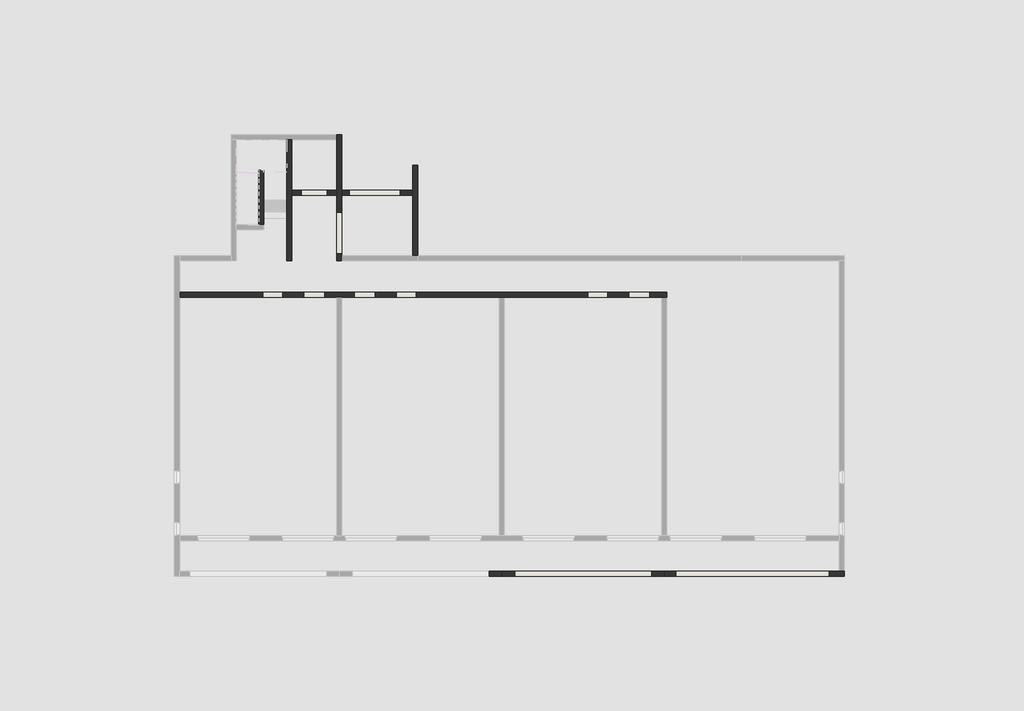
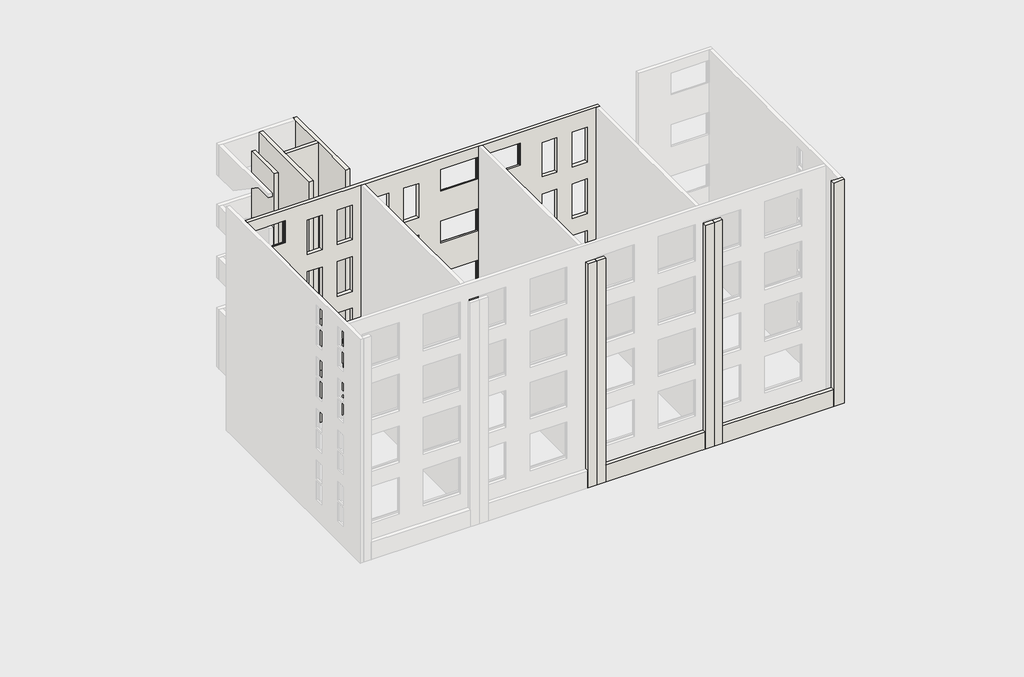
# One storey, part 2 of 5: 14 walls.
"""IFC4 building model written with IfcOpenShell, lengths in millimetres."""

from ifc_helpers import new_model, si_unit, frame, origin, place, context, project, spatial, polyline, outline, extrude, faceted_brep, element, save

model = new_model("IFC4")

# Units and contexts
model_context = context("Model", 3, world=origin())
ifc_project = project(units=[si_unit("LENGTHUNIT", "METRE", prefix="MILLI")], contexts=[model_context])

# Site, building, storey
site = spatial("IfcSite", under=ifc_project)
building = spatial("IfcBuilding", under=site)
storey = spatial("IfcBuildingStorey", under=building, Name="設計GL", Elevation=0.0)

# Walls
placement = place(None, origin())
element("IfcWall", 1, ObjectType="(R)RC200", at=placement, inside=storey, context=model_context, shape_type="Brep", body=[
    faceted_brep([(-11078.7187246, -5800.1171638, -1200.0), (-4828.7187246, -5800.1171638, -1200.0), (-4628.7187246, -5800.1171638, -1200.0), (1621.2812754, -5800.1171638, -1200.0), (1821.2812754, -5800.1171638, -1200.0), (8071.2812754, -5800.1171638, -1200.0), (8271.2812754, -5800.1171638, -1200.0), (8271.2812754, -5800.1171638, -200.0), (8271.2812754, -5800.1171638, 13000.0), (8071.2812754, -5800.1171638, 13000.0), (1821.2812754, -5800.1171638, 13000.0), (1621.2812754, -5800.1171638, 13000.0), (-4628.7187246, -5800.1171638, 13000.0), (-4828.7187246, -5800.1171638, 13000.0), (-11078.7187246, -5800.1171638, 13000.0), (-6978.7187246, -5800.1171638, 1000.0), (-7778.7187246, -5800.1171638, 1000.0), (-7778.7187246, -5800.1171638, 3000.0), (-6978.7187246, -5800.1171638, 3000.0), (-6148.7187246, -5800.1171638, 3020.0), (-5308.7187246, -5800.1171638, 3020.0), (-5308.7187246, -5800.1171638, 1000.0), (-6148.7187246, -5800.1171638, 1000.0), (-8988.7187246, -5800.1171638, 3385.0), (-8988.7187246, -5800.1171638, 2115.0), (-11068.7187246, -5800.1171638, 2115.0), (-11068.7187246, -5800.1171638, 3385.0), (1611.2812754, -5800.1171638, 3385.0), (1611.2812754, -5800.1171638, 2115.0), (-468.7187246, -5800.1171638, 2115.0), (-468.7187246, -5800.1171638, 3385.0), (-3308.7187246, -5800.1171638, 3020.0), (-3308.7187246, -5800.1171638, 1000.0), (-4148.7187246, -5800.1171638, 1000.0), (-4148.7187246, -5800.1171638, 3020.0), (-2478.7187246, -5800.1171638, 1000.0), (-2478.7187246, -5800.1171638, 3000.0), (-1678.7187246, -5800.1171638, 3000.0), (-1678.7187246, -5800.1171638, 1000.0), (3911.2812754, -5800.1171638, 3385.0), (3911.2812754, -5800.1171638, 2115.0), (1831.2812754, -5800.1171638, 2115.0), (1831.2812754, -5800.1171638, 3385.0), (6751.2812754, -5800.1171638, 3020.0), (7591.2812754, -5800.1171638, 3020.0), (7591.2812754, -5800.1171638, 1000.0), (6751.2812754, -5800.1171638, 1000.0), (5921.2812754, -5800.1171638, 1000.0), (5121.2812754, -5800.1171638, 1000.0), (5121.2812754, -5800.1171638, 3000.0), (5921.2812754, -5800.1171638, 3000.0), (3911.2812754, -5800.1171638, 6385.0), (3911.2812754, -5800.1171638, 5115.0), (1831.2812754, -5800.1171638, 5115.0), (1831.2812754, -5800.1171638, 6385.0), (6751.2812754, -5800.1171638, 6020.0), (7591.2812754, -5800.1171638, 6020.0), (7591.2812754, -5800.1171638, 4000.0), (6751.2812754, -5800.1171638, 4000.0), (5921.2812754, -5800.1171638, 4000.0), (5121.2812754, -5800.1171638, 4000.0), (5121.2812754, -5800.1171638, 6000.0), (5921.2812754, -5800.1171638, 6000.0), (1611.2812754, -5800.1171638, 6385.0), (1611.2812754, -5800.1171638, 5115.0), (-468.7187246, -5800.1171638, 5115.0), (-468.7187246, -5800.1171638, 6385.0), (-3308.7187246, -5800.1171638, 6020.0), (-3308.7187246, -5800.1171638, 4000.0), (-4148.7187246, -5800.1171638, 4000.0), (-4148.7187246, -5800.1171638, 6020.0), (-2478.7187246, -5800.1171638, 4000.0), (-2478.7187246, -5800.1171638, 6000.0), (-1678.7187246, -5800.1171638, 6000.0), (-1678.7187246, -5800.1171638, 4000.0), (-8988.7187246, -5800.1171638, 6385.0), (-8988.7187246, -5800.1171638, 5115.0), (-11068.7187246, -5800.1171638, 5115.0), (-11068.7187246, -5800.1171638, 6385.0), (-6148.7187246, -5800.1171638, 6020.0), (-5308.7187246, -5800.1171638, 6020.0), (-5308.7187246, -5800.1171638, 4000.0), (-6148.7187246, -5800.1171638, 4000.0), (-6978.7187246, -5800.1171638, 4000.0), (-7778.7187246, -5800.1171638, 4000.0), (-7778.7187246, -5800.1171638, 6000.0), (-6978.7187246, -5800.1171638, 6000.0), (3911.2812754, -5800.1171638, 9385.0), (3911.2812754, -5800.1171638, 8115.0), (1831.2812754, -5800.1171638, 8115.0), (1831.2812754, -5800.1171638, 9385.0), (6751.2812754, -5800.1171638, 9020.0), (7591.2812754, -5800.1171638, 9020.0), (7591.2812754, -5800.1171638, 7000.0), (6751.2812754, -5800.1171638, 7000.0), (5921.2812754, -5800.1171638, 7000.0), (5121.2812754, -5800.1171638, 7000.0), (5121.2812754, -5800.1171638, 9000.0), (5921.2812754, -5800.1171638, 9000.0), (1611.2812754, -5800.1171638, 9385.0), (1611.2812754, -5800.1171638, 8115.0), (-468.7187246, -5800.1171638, 8115.0), (-468.7187246, -5800.1171638, 9385.0), (-3308.7187246, -5800.1171638, 9020.0), (-3308.7187246, -5800.1171638, 7000.0), (-4148.7187246, -5800.1171638, 7000.0), (-4148.7187246, -5800.1171638, 9020.0), (-2478.7187246, -5800.1171638, 7000.0), (-2478.7187246, -5800.1171638, 9000.0), (-1678.7187246, -5800.1171638, 9000.0), (-1678.7187246, -5800.1171638, 7000.0), (-8988.7187246, -5800.1171638, 9385.0), (-8988.7187246, -5800.1171638, 8115.0), (-11068.7187246, -5800.1171638, 8115.0), (-11068.7187246, -5800.1171638, 9385.0), (-6148.7187246, -5800.1171638, 9020.0), (-5308.7187246, -5800.1171638, 9020.0), (-5308.7187246, -5800.1171638, 7000.0), (-6148.7187246, -5800.1171638, 7000.0), (-6978.7187246, -5800.1171638, 7000.0), (-7778.7187246, -5800.1171638, 7000.0), (-7778.7187246, -5800.1171638, 9000.0), (-6978.7187246, -5800.1171638, 9000.0), (3911.2812754, -5800.1171638, 12385.0), (3911.2812754, -5800.1171638, 11115.0), (1831.2812754, -5800.1171638, 11115.0), (1831.2812754, -5800.1171638, 12385.0), (6751.2812754, -5800.1171638, 12020.0), (7591.2812754, -5800.1171638, 12020.0), (7591.2812754, -5800.1171638, 10000.0), (6751.2812754, -5800.1171638, 10000.0), (5921.2812754, -5800.1171638, 10000.0), (5121.2812754, -5800.1171638, 10000.0), (5121.2812754, -5800.1171638, 12000.0), (5921.2812754, -5800.1171638, 12000.0), (1611.2812754, -5800.1171638, 12385.0), (1611.2812754, -5800.1171638, 11115.0), (-468.7187246, -5800.1171638, 11115.0), (-468.7187246, -5800.1171638, 12385.0), (-3308.7187246, -5800.1171638, 12020.0), (-3308.7187246, -5800.1171638, 10000.0), (-4148.7187246, -5800.1171638, 10000.0), (-4148.7187246, -5800.1171638, 12020.0), (-2478.7187246, -5800.1171638, 10000.0), (-2478.7187246, -5800.1171638, 12000.0), (-1678.7187246, -5800.1171638, 12000.0), (-1678.7187246, -5800.1171638, 10000.0), (-8988.7187246, -5800.1171638, 12385.0), (-8988.7187246, -5800.1171638, 11115.0), (-11068.7187246, -5800.1171638, 11115.0), (-11068.7187246, -5800.1171638, 12385.0), (-6148.7187246, -5800.1171638, 12020.0), (-5308.7187246, -5800.1171638, 12020.0), (-5308.7187246, -5800.1171638, 10000.0), (-6148.7187246, -5800.1171638, 10000.0), (-6978.7187246, -5800.1171638, 10000.0), (-7778.7187246, -5800.1171638, 10000.0), (-7778.7187246, -5800.1171638, 12000.0), (-6978.7187246, -5800.1171638, 12000.0), (8271.2812754, -5600.1171638, -1200.0), (-11078.7187246, -5600.1171638, -1200.0), (-11078.7187246, -5600.1171638, 13000.0), (8271.2812754, -5600.1171638, 13000.0), (8271.2812754, -5600.1171638, -200.0), (-6978.7187246, -5600.1171638, 1000.0), (-6978.7187246, -5600.1171638, 3000.0), (-7778.7187246, -5600.1171638, 3000.0), (-7778.7187246, -5600.1171638, 1000.0), (-6148.7187246, -5600.1171638, 3020.0), (-6148.7187246, -5600.1171638, 1000.0), (-5308.7187246, -5600.1171638, 1000.0), (-5308.7187246, -5600.1171638, 3020.0), (-11038.7187246, -5600.1171638, 2025.0), (-9018.7187246, -5600.1171638, 2025.0), (-9018.7187246, -5600.1171638, 3360.0), (-11038.7187246, -5600.1171638, 3360.0), (-438.7187246, -5600.1171638, 2025.0), (1581.2812754, -5600.1171638, 2025.0), (1581.2812754, -5600.1171638, 3360.0), (-438.7187246, -5600.1171638, 3360.0), (-3308.7187246, -5600.1171638, 3020.0), (-4148.7187246, -5600.1171638, 3020.0), (-4148.7187246, -5600.1171638, 1000.0), (-3308.7187246, -5600.1171638, 1000.0), (-2478.7187246, -5600.1171638, 1000.0), (-1678.7187246, -5600.1171638, 1000.0), (-1678.7187246, -5600.1171638, 3000.0), (-2478.7187246, -5600.1171638, 3000.0), (1861.2812754, -5600.1171638, 2025.0), (3881.2812754, -5600.1171638, 2025.0), (3881.2812754, -5600.1171638, 3360.0), (1861.2812754, -5600.1171638, 3360.0), (6751.2812754, -5600.1171638, 3020.0), (6751.2812754, -5600.1171638, 1000.0), (7591.2812754, -5600.1171638, 1000.0), (7591.2812754, -5600.1171638, 3020.0), (5921.2812754, -5600.1171638, 1000.0), (5921.2812754, -5600.1171638, 3000.0), (5121.2812754, -5600.1171638, 3000.0), (5121.2812754, -5600.1171638, 1000.0), (1861.2812754, -5600.1171638, 5025.0), (3881.2812754, -5600.1171638, 5025.0), (3881.2812754, -5600.1171638, 6360.0), (1861.2812754, -5600.1171638, 6360.0), (6751.2812754, -5600.1171638, 6020.0), (6751.2812754, -5600.1171638, 4000.0), (7591.2812754, -5600.1171638, 4000.0), (7591.2812754, -5600.1171638, 6020.0), (5921.2812754, -5600.1171638, 4000.0), (5921.2812754, -5600.1171638, 6000.0), (5121.2812754, -5600.1171638, 6000.0), (5121.2812754, -5600.1171638, 4000.0), (-438.7187246, -5600.1171638, 5025.0), (1581.2812754, -5600.1171638, 5025.0), (1581.2812754, -5600.1171638, 6360.0), (-438.7187246, -5600.1171638, 6360.0), (-3308.7187246, -5600.1171638, 6020.0), (-4148.7187246, -5600.1171638, 6020.0), (-4148.7187246, -5600.1171638, 4000.0), (-3308.7187246, -5600.1171638, 4000.0), (-2478.7187246, -5600.1171638, 4000.0), (-1678.7187246, -5600.1171638, 4000.0), (-1678.7187246, -5600.1171638, 6000.0), (-2478.7187246, -5600.1171638, 6000.0), (-11038.7187246, -5600.1171638, 5025.0), (-9018.7187246, -5600.1171638, 5025.0), (-9018.7187246, -5600.1171638, 6360.0), (-11038.7187246, -5600.1171638, 6360.0), (-6148.7187246, -5600.1171638, 6020.0), (-6148.7187246, -5600.1171638, 4000.0), (-5308.7187246, -5600.1171638, 4000.0), (-5308.7187246, -5600.1171638, 6020.0), (-6978.7187246, -5600.1171638, 4000.0), (-6978.7187246, -5600.1171638, 6000.0), (-7778.7187246, -5600.1171638, 6000.0), (-7778.7187246, -5600.1171638, 4000.0), (1861.2812754, -5600.1171638, 8025.0), (3881.2812754, -5600.1171638, 8025.0), (3881.2812754, -5600.1171638, 9360.0), (1861.2812754, -5600.1171638, 9360.0), (6751.2812754, -5600.1171638, 9020.0), (6751.2812754, -5600.1171638, 7000.0), (7591.2812754, -5600.1171638, 7000.0), (7591.2812754, -5600.1171638, 9020.0), (5921.2812754, -5600.1171638, 7000.0), (5921.2812754, -5600.1171638, 9000.0), (5121.2812754, -5600.1171638, 9000.0), (5121.2812754, -5600.1171638, 7000.0), (-438.7187246, -5600.1171638, 8025.0), (1581.2812754, -5600.1171638, 8025.0), (1581.2812754, -5600.1171638, 9360.0), (-438.7187246, -5600.1171638, 9360.0), (-3308.7187246, -5600.1171638, 9020.0), (-4148.7187246, -5600.1171638, 9020.0), (-4148.7187246, -5600.1171638, 7000.0), (-3308.7187246, -5600.1171638, 7000.0), (-2478.7187246, -5600.1171638, 7000.0), (-1678.7187246, -5600.1171638, 7000.0), (-1678.7187246, -5600.1171638, 9000.0), (-2478.7187246, -5600.1171638, 9000.0), (-11038.7187246, -5600.1171638, 8025.0), (-9018.7187246, -5600.1171638, 8025.0), (-9018.7187246, -5600.1171638, 9360.0), (-11038.7187246, -5600.1171638, 9360.0), (-6148.7187246, -5600.1171638, 9020.0), (-6148.7187246, -5600.1171638, 7000.0), (-5308.7187246, -5600.1171638, 7000.0), (-5308.7187246, -5600.1171638, 9020.0), (-6978.7187246, -5600.1171638, 7000.0), (-6978.7187246, -5600.1171638, 9000.0), (-7778.7187246, -5600.1171638, 9000.0), (-7778.7187246, -5600.1171638, 7000.0), (1861.2812754, -5600.1171638, 11025.0), (3881.2812754, -5600.1171638, 11025.0), (3881.2812754, -5600.1171638, 12360.0), (1861.2812754, -5600.1171638, 12360.0), (6751.2812754, -5600.1171638, 12020.0), (6751.2812754, -5600.1171638, 10000.0), (7591.2812754, -5600.1171638, 10000.0), (7591.2812754, -5600.1171638, 12020.0), (5921.2812754, -5600.1171638, 10000.0), (5921.2812754, -5600.1171638, 12000.0), (5121.2812754, -5600.1171638, 12000.0), (5121.2812754, -5600.1171638, 10000.0), (-438.7187246, -5600.1171638, 11025.0), (1581.2812754, -5600.1171638, 11025.0), (1581.2812754, -5600.1171638, 12360.0), (-438.7187246, -5600.1171638, 12360.0), (-3308.7187246, -5600.1171638, 12020.0), (-4148.7187246, -5600.1171638, 12020.0), (-4148.7187246, -5600.1171638, 10000.0), (-3308.7187246, -5600.1171638, 10000.0), (-2478.7187246, -5600.1171638, 10000.0), (-1678.7187246, -5600.1171638, 10000.0), (-1678.7187246, -5600.1171638, 12000.0), (-2478.7187246, -5600.1171638, 12000.0), (-11038.7187246, -5600.1171638, 11025.0), (-9018.7187246, -5600.1171638, 11025.0), (-9018.7187246, -5600.1171638, 12360.0), (-11038.7187246, -5600.1171638, 12360.0), (-6148.7187246, -5600.1171638, 12020.0), (-6148.7187246, -5600.1171638, 10000.0), (-5308.7187246, -5600.1171638, 10000.0), (-5308.7187246, -5600.1171638, 12020.0), (-6978.7187246, -5600.1171638, 10000.0), (-6978.7187246, -5600.1171638, 12000.0), (-7778.7187246, -5600.1171638, 12000.0), (-7778.7187246, -5600.1171638, 10000.0), (-8988.7187246, -5730.1171638, 3385.0), (-8988.7187246, -5730.1171638, 2115.0), (-11068.7187246, -5730.1171638, 2115.0), (-11068.7187246, -5730.1171638, 3385.0), (-8998.7187246, -5730.1171638, 2115.0), (-11058.7187246, -5730.1171638, 2115.0), (-11058.7187246, -5730.1171638, 3380.0), (-8998.7187246, -5730.1171638, 3380.0), (-8998.7187246, -5660.1171638, 3380.0), (-8998.7187246, -5660.1171638, 2034.2307692), (-8998.7187246, -5730.1171638, 2045.0), (-11058.7187246, -5730.1171638, 2045.0), (-11058.7187246, -5660.1171638, 2034.2307692), (-11058.7187246, -5660.1171638, 3380.0), (-9018.7187246, -5660.1171638, 2034.2307692), (-11038.7187246, -5660.1171638, 2034.2307692), (-11038.7187246, -5660.1171638, 3360.0), (-9018.7187246, -5660.1171638, 3360.0), (1611.2812754, -5730.1171638, 3385.0), (1611.2812754, -5730.1171638, 2115.0), (-468.7187246, -5730.1171638, 2115.0), (-468.7187246, -5730.1171638, 3385.0), (1601.2812754, -5730.1171638, 2115.0), (-458.7187246, -5730.1171638, 2115.0), (-458.7187246, -5730.1171638, 3380.0), (1601.2812754, -5730.1171638, 3380.0), (1601.2812754, -5660.1171638, 3380.0), (1601.2812754, -5660.1171638, 2034.2307692), (1601.2812754, -5730.1171638, 2045.0), (-458.7187246, -5730.1171638, 2045.0), (-458.7187246, -5660.1171638, 2034.2307692), (-458.7187246, -5660.1171638, 3380.0), (1581.2812754, -5660.1171638, 2034.2307692), (-438.7187246, -5660.1171638, 2034.2307692), (-438.7187246, -5660.1171638, 3360.0), (1581.2812754, -5660.1171638, 3360.0), (3911.2812754, -5730.1171638, 3385.0), (3911.2812754, -5730.1171638, 2115.0), (1831.2812754, -5730.1171638, 2115.0), (1831.2812754, -5730.1171638, 3385.0), (3901.2812754, -5730.1171638, 2115.0), (1841.2812754, -5730.1171638, 2115.0), (1841.2812754, -5730.1171638, 3380.0), (3901.2812754, -5730.1171638, 3380.0), (3901.2812754, -5660.1171638, 3380.0), (3901.2812754, -5660.1171638, 2034.2307692), (3901.2812754, -5730.1171638, 2045.0), (1841.2812754, -5730.1171638, 2045.0), (1841.2812754, -5660.1171638, 2034.2307692), (1841.2812754, -5660.1171638, 3380.0), (3881.2812754, -5660.1171638, 2034.2307692), (1861.2812754, -5660.1171638, 2034.2307692), (1861.2812754, -5660.1171638, 3360.0), (3881.2812754, -5660.1171638, 3360.0), (3911.2812754, -5730.1171638, 6385.0), (3911.2812754, -5730.1171638, 5115.0), (1831.2812754, -5730.1171638, 5115.0), (1831.2812754, -5730.1171638, 6385.0), (3901.2812754, -5730.1171638, 5115.0), (1841.2812754, -5730.1171638, 5115.0), (1841.2812754, -5730.1171638, 6380.0), (3901.2812754, -5730.1171638, 6380.0), (3901.2812754, -5660.1171638, 6380.0), (3901.2812754, -5660.1171638, 5034.2307692), (3901.2812754, -5730.1171638, 5045.0), (1841.2812754, -5730.1171638, 5045.0), (1841.2812754, -5660.1171638, 5034.2307692), (1841.2812754, -5660.1171638, 6380.0), (3881.2812754, -5660.1171638, 5034.2307692), (1861.2812754, -5660.1171638, 5034.2307692), (1861.2812754, -5660.1171638, 6360.0), (3881.2812754, -5660.1171638, 6360.0), (1611.2812754, -5730.1171638, 6385.0), (1611.2812754, -5730.1171638, 5115.0), (-468.7187246, -5730.1171638, 5115.0), (-468.7187246, -5730.1171638, 6385.0), (1601.2812754, -5730.1171638, 5115.0), (-458.7187246, -5730.1171638, 5115.0), (-458.7187246, -5730.1171638, 6380.0), (1601.2812754, -5730.1171638, 6380.0), (1601.2812754, -5660.1171638, 6380.0), (1601.2812754, -5660.1171638, 5034.2307692), (1601.2812754, -5730.1171638, 5045.0), (-458.7187246, -5730.1171638, 5045.0), (-458.7187246, -5660.1171638, 5034.2307692), (-458.7187246, -5660.1171638, 6380.0), (1581.2812754, -5660.1171638, 5034.2307692), (-438.7187246, -5660.1171638, 5034.2307692), (-438.7187246, -5660.1171638, 6360.0), (1581.2812754, -5660.1171638, 6360.0), (-8988.7187246, -5730.1171638, 6385.0), (-8988.7187246, -5730.1171638, 5115.0), (-11068.7187246, -5730.1171638, 5115.0), (-11068.7187246, -5730.1171638, 6385.0), (-8998.7187246, -5730.1171638, 5115.0), (-11058.7187246, -5730.1171638, 5115.0), (-11058.7187246, -5730.1171638, 6380.0), (-8998.7187246, -5730.1171638, 6380.0), (-8998.7187246, -5660.1171638, 6380.0), (-8998.7187246, -5660.1171638, 5034.2307692), (-8998.7187246, -5730.1171638, 5045.0), (-11058.7187246, -5730.1171638, 5045.0), (-11058.7187246, -5660.1171638, 5034.2307692), (-11058.7187246, -5660.1171638, 6380.0), (-9018.7187246, -5660.1171638, 5034.2307692), (-11038.7187246, -5660.1171638, 5034.2307692), (-11038.7187246, -5660.1171638, 6360.0), (-9018.7187246, -5660.1171638, 6360.0), (3911.2812754, -5730.1171638, 9385.0), (3911.2812754, -5730.1171638, 8115.0), (1831.2812754, -5730.1171638, 8115.0), (1831.2812754, -5730.1171638, 9385.0), (3901.2812754, -5730.1171638, 8115.0), (1841.2812754, -5730.1171638, 8115.0), (1841.2812754, -5730.1171638, 9380.0), (3901.2812754, -5730.1171638, 9380.0), (3901.2812754, -5660.1171638, 9380.0), (3901.2812754, -5660.1171638, 8034.2307692), (3901.2812754, -5730.1171638, 8045.0), (1841.2812754, -5730.1171638, 8045.0), (1841.2812754, -5660.1171638, 8034.2307692), (1841.2812754, -5660.1171638, 9380.0), (3881.2812754, -5660.1171638, 8034.2307692), (1861.2812754, -5660.1171638, 8034.2307692), (1861.2812754, -5660.1171638, 9360.0), (3881.2812754, -5660.1171638, 9360.0), (1611.2812754, -5730.1171638, 9385.0), (1611.2812754, -5730.1171638, 8115.0), (-468.7187246, -5730.1171638, 8115.0), (-468.7187246, -5730.1171638, 9385.0), (1601.2812754, -5730.1171638, 8115.0), (-458.7187246, -5730.1171638, 8115.0), (-458.7187246, -5730.1171638, 9380.0), (1601.2812754, -5730.1171638, 9380.0), (1601.2812754, -5660.1171638, 9380.0), (1601.2812754, -5660.1171638, 8034.2307692), (1601.2812754, -5730.1171638, 8045.0), (-458.7187246, -5730.1171638, 8045.0), (-458.7187246, -5660.1171638, 8034.2307692), (-458.7187246, -5660.1171638, 9380.0), (1581.2812754, -5660.1171638, 8034.2307692), (-438.7187246, -5660.1171638, 8034.2307692), (-438.7187246, -5660.1171638, 9360.0), (1581.2812754, -5660.1171638, 9360.0), (-8988.7187246, -5730.1171638, 9385.0), (-8988.7187246, -5730.1171638, 8115.0), (-11068.7187246, -5730.1171638, 8115.0), (-11068.7187246, -5730.1171638, 9385.0), (-8998.7187246, -5730.1171638, 8115.0), (-11058.7187246, -5730.1171638, 8115.0), (-11058.7187246, -5730.1171638, 9380.0), (-8998.7187246, -5730.1171638, 9380.0), (-8998.7187246, -5660.1171638, 9380.0), (-8998.7187246, -5660.1171638, 8034.2307692), (-8998.7187246, -5730.1171638, 8045.0), (-11058.7187246, -5730.1171638, 8045.0), (-11058.7187246, -5660.1171638, 8034.2307692), (-11058.7187246, -5660.1171638, 9380.0), (-9018.7187246, -5660.1171638, 8034.2307692), (-11038.7187246, -5660.1171638, 8034.2307692), (-11038.7187246, -5660.1171638, 9360.0), (-9018.7187246, -5660.1171638, 9360.0), (3911.2812754, -5730.1171638, 12385.0), (3911.2812754, -5730.1171638, 11115.0), (1831.2812754, -5730.1171638, 11115.0), (1831.2812754, -5730.1171638, 12385.0), (3901.2812754, -5730.1171638, 11115.0), (1841.2812754, -5730.1171638, 11115.0), (1841.2812754, -5730.1171638, 12380.0), (3901.2812754, -5730.1171638, 12380.0), (3901.2812754, -5660.1171638, 12380.0), (3901.2812754, -5660.1171638, 11034.2307692), (3901.2812754, -5730.1171638, 11045.0), (1841.2812754, -5730.1171638, 11045.0), (1841.2812754, -5660.1171638, 11034.2307692), (1841.2812754, -5660.1171638, 12380.0), (3881.2812754, -5660.1171638, 11034.2307692), (1861.2812754, -5660.1171638, 11034.2307692), (1861.2812754, -5660.1171638, 12360.0), (3881.2812754, -5660.1171638, 12360.0), (1611.2812754, -5730.1171638, 12385.0), (1611.2812754, -5730.1171638, 11115.0), (-468.7187246, -5730.1171638, 11115.0), (-468.7187246, -5730.1171638, 12385.0), (1601.2812754, -5730.1171638, 11115.0), (-458.7187246, -5730.1171638, 11115.0), (-458.7187246, -5730.1171638, 12380.0), (1601.2812754, -5730.1171638, 12380.0), (1601.2812754, -5660.1171638, 12380.0), (1601.2812754, -5660.1171638, 11034.2307692), (1601.2812754, -5730.1171638, 11045.0), (-458.7187246, -5730.1171638, 11045.0), (-458.7187246, -5660.1171638, 11034.2307692), (-458.7187246, -5660.1171638, 12380.0), (1581.2812754, -5660.1171638, 11034.2307692), (-438.7187246, -5660.1171638, 11034.2307692), (-438.7187246, -5660.1171638, 12360.0), (1581.2812754, -5660.1171638, 12360.0), (-8988.7187246, -5730.1171638, 12385.0), (-8988.7187246, -5730.1171638, 11115.0), (-11068.7187246, -5730.1171638, 11115.0), (-11068.7187246, -5730.1171638, 12385.0), (-8998.7187246, -5730.1171638, 11115.0), (-11058.7187246, -5730.1171638, 11115.0), (-11058.7187246, -5730.1171638, 12380.0), (-8998.7187246, -5730.1171638, 12380.0), (-8998.7187246, -5660.1171638, 12380.0), (-8998.7187246, -5660.1171638, 11034.2307692), (-8998.7187246, -5730.1171638, 11045.0), (-11058.7187246, -5730.1171638, 11045.0), (-11058.7187246, -5660.1171638, 11034.2307692), (-11058.7187246, -5660.1171638, 12380.0), (-9018.7187246, -5660.1171638, 11034.2307692), (-11038.7187246, -5660.1171638, 11034.2307692), (-11038.7187246, -5660.1171638, 12360.0), (-9018.7187246, -5660.1171638, 12360.0)], [[[0, 1, 2, 3, 4, 5, 6, 7, 8, 9, 10, 11, 12, 13, 14], [15, 16, 17, 18], [19, 20, 21, 22], [23, 24, 25, 26], [27, 28, 29, 30], [31, 32, 33, 34], [35, 36, 37, 38], [39, 40, 41, 42], [43, 44, 45, 46], [47, 48, 49, 50], [51, 52, 53, 54], [55, 56, 57, 58], [59, 60, 61, 62], [63, 64, 65, 66], [67, 68, 69, 70], [71, 72, 73, 74], [75, 76, 77, 78], [79, 80, 81, 82], [83, 84, 85, 86], [87, 88, 89, 90], [91, 92, 93, 94], [95, 96, 97, 98], [99, 100, 101, 102], [103, 104, 105, 106], [107, 108, 109, 110], [111, 112, 113, 114], [115, 116, 117, 118], [119, 120, 121, 122], [123, 124, 125, 126], [127, 128, 129, 130], [131, 132, 133, 134], [135, 136, 137, 138], [139, 140, 141, 142], [143, 144, 145, 146], [147, 148, 149, 150], [151, 152, 153, 154], [155, 156, 157, 158]], [[159, 160, 161, 162, 163], [164, 165, 166, 167], [168, 169, 170, 171], [172, 173, 174, 175], [176, 177, 178, 179], [180, 181, 182, 183], [184, 185, 186, 187], [188, 189, 190, 191], [192, 193, 194, 195], [196, 197, 198, 199], [200, 201, 202, 203], [204, 205, 206, 207], [208, 209, 210, 211], [212, 213, 214, 215], [216, 217, 218, 219], [220, 221, 222, 223], [224, 225, 226, 227], [228, 229, 230, 231], [232, 233, 234, 235], [236, 237, 238, 239], [240, 241, 242, 243], [244, 245, 246, 247], [248, 249, 250, 251], [252, 253, 254, 255], [256, 257, 258, 259], [260, 261, 262, 263], [264, 265, 266, 267], [268, 269, 270, 271], [272, 273, 274, 275], [276, 277, 278, 279], [280, 281, 282, 283], [284, 285, 286, 287], [288, 289, 290, 291], [292, 293, 294, 295], [296, 297, 298, 299], [300, 301, 302, 303], [304, 305, 306, 307]], [[6, 5, 4, 3, 2, 1, 0, 160, 159]], [[14, 13, 12, 11, 10, 9, 8, 162, 161]], [[0, 14, 161, 160]], [[165, 164, 15, 18]], [[166, 165, 18, 17]], [[167, 166, 17, 16]], [[164, 167, 16, 15]], [[169, 168, 19, 22]], [[170, 169, 22, 21]], [[171, 170, 21, 20]], [[168, 171, 20, 19]], [[308, 309, 24, 23]], [[310, 311, 26, 25]], [[309, 312, 313, 310, 25, 24]], [[309, 308, 311, 310, 313, 314, 315, 312]], [[311, 308, 23, 26]], [[312, 315, 316, 317, 318]], [[314, 313, 319, 320, 321]], [[318, 317, 322, 173, 172, 323, 320, 319]], [[317, 316, 321, 320, 323, 324, 325, 322]], [[315, 314, 321, 316]], [[313, 312, 318, 319]], [[173, 322, 325, 174]], [[323, 172, 175, 324]], [[325, 324, 175, 174]], [[326, 327, 28, 27]], [[328, 329, 30, 29]], [[28, 327, 330, 331, 328, 29]], [[327, 326, 329, 328, 331, 332, 333, 330]], [[329, 326, 27, 30]], [[333, 334, 335, 336, 330]], [[337, 338, 339, 332, 331]], [[336, 335, 340, 177, 176, 341, 338, 337]], [[335, 334, 339, 338, 341, 342, 343, 340]], [[334, 333, 332, 339]], [[336, 337, 331, 330]], [[343, 178, 177, 340]], [[341, 176, 179, 342]], [[178, 343, 342, 179]], [[32, 31, 180, 183]], [[33, 32, 183, 182]], [[34, 33, 182, 181]], [[31, 34, 181, 180]], [[36, 35, 184, 187]], [[37, 36, 187, 186]], [[38, 37, 186, 185]], [[35, 38, 185, 184]], [[344, 345, 40, 39]], [[346, 347, 42, 41]], [[40, 345, 348, 349, 346, 41]], [[345, 344, 347, 346, 349, 350, 351, 348]], [[347, 344, 39, 42]], [[351, 352, 353, 354, 348]], [[355, 356, 357, 350, 349]], [[354, 353, 358, 189, 188, 359, 356, 355]], [[353, 352, 357, 356, 359, 360, 361, 358]], [[352, 351, 350, 357]], [[354, 355, 349, 348]], [[361, 190, 189, 358]], [[359, 188, 191, 360]], [[190, 361, 360, 191]], [[193, 192, 43, 46]], [[194, 193, 46, 45]], [[195, 194, 45, 44]], [[192, 195, 44, 43]], [[197, 196, 47, 50]], [[198, 197, 50, 49]], [[199, 198, 49, 48]], [[196, 199, 48, 47]], [[6, 159, 163, 162, 8, 7]], [[362, 363, 52, 51]], [[364, 365, 54, 53]], [[52, 363, 366, 367, 364, 53]], [[363, 362, 365, 364, 367, 368, 369, 366]], [[365, 362, 51, 54]], [[369, 370, 371, 372, 366]], [[373, 374, 375, 368, 367]], [[372, 371, 376, 201, 200, 377, 374, 373]], [[371, 370, 375, 374, 377, 378, 379, 376]], [[370, 369, 368, 375]], [[372, 373, 367, 366]], [[379, 202, 201, 376]], [[377, 200, 203, 378]], [[202, 379, 378, 203]], [[205, 204, 55, 58]], [[206, 205, 58, 57]], [[207, 206, 57, 56]], [[204, 207, 56, 55]], [[209, 208, 59, 62]], [[210, 209, 62, 61]], [[211, 210, 61, 60]], [[208, 211, 60, 59]], [[380, 381, 64, 63]], [[382, 383, 66, 65]], [[64, 381, 384, 385, 382, 65]], [[381, 380, 383, 382, 385, 386, 387, 384]], [[383, 380, 63, 66]], [[387, 388, 389, 390, 384]], [[391, 392, 393, 386, 385]], [[390, 389, 394, 213, 212, 395, 392, 391]], [[389, 388, 393, 392, 395, 396, 397, 394]], [[388, 387, 386, 393]], [[390, 391, 385, 384]], [[397, 214, 213, 394]], [[395, 212, 215, 396]], [[214, 397, 396, 215]], [[68, 67, 216, 219]], [[69, 68, 219, 218]], [[70, 69, 218, 217]], [[67, 70, 217, 216]], [[72, 71, 220, 223]], [[73, 72, 223, 222]], [[74, 73, 222, 221]], [[71, 74, 221, 220]], [[398, 399, 76, 75]], [[400, 401, 78, 77]], [[76, 399, 402, 403, 400, 77]], [[399, 398, 401, 400, 403, 404, 405, 402]], [[401, 398, 75, 78]], [[405, 406, 407, 408, 402]], [[409, 410, 411, 404, 403]], [[408, 407, 412, 225, 224, 413, 410, 409]], [[407, 406, 411, 410, 413, 414, 415, 412]], [[406, 405, 404, 411]], [[408, 409, 403, 402]], [[415, 226, 225, 412]], [[413, 224, 227, 414]], [[226, 415, 414, 227]], [[229, 228, 79, 82]], [[230, 229, 82, 81]], [[231, 230, 81, 80]], [[228, 231, 80, 79]], [[233, 232, 83, 86]], [[234, 233, 86, 85]], [[235, 234, 85, 84]], [[232, 235, 84, 83]], [[416, 417, 88, 87]], [[418, 419, 90, 89]], [[88, 417, 420, 421, 418, 89]], [[417, 416, 419, 418, 421, 422, 423, 420]], [[419, 416, 87, 90]], [[423, 424, 425, 426, 420]], [[427, 428, 429, 422, 421]], [[426, 425, 430, 237, 236, 431, 428, 427]], [[425, 424, 429, 428, 431, 432, 433, 430]], [[424, 423, 422, 429]], [[426, 427, 421, 420]], [[433, 238, 237, 430]], [[431, 236, 239, 432]], [[238, 433, 432, 239]], [[241, 240, 91, 94]], [[242, 241, 94, 93]], [[243, 242, 93, 92]], [[240, 243, 92, 91]], [[245, 244, 95, 98]], [[246, 245, 98, 97]], [[247, 246, 97, 96]], [[244, 247, 96, 95]], [[434, 435, 100, 99]], [[436, 437, 102, 101]], [[100, 435, 438, 439, 436, 101]], [[435, 434, 437, 436, 439, 440, 441, 438]], [[437, 434, 99, 102]], [[441, 442, 443, 444, 438]], [[445, 446, 447, 440, 439]], [[444, 443, 448, 249, 248, 449, 446, 445]], [[443, 442, 447, 446, 449, 450, 451, 448]], [[442, 441, 440, 447]], [[444, 445, 439, 438]], [[451, 250, 249, 448]], [[449, 248, 251, 450]], [[250, 451, 450, 251]], [[104, 103, 252, 255]], [[105, 104, 255, 254]], [[106, 105, 254, 253]], [[103, 106, 253, 252]], [[108, 107, 256, 259]], [[109, 108, 259, 258]], [[110, 109, 258, 257]], [[107, 110, 257, 256]], [[452, 453, 112, 111]], [[454, 455, 114, 113]], [[112, 453, 456, 457, 454, 113]], [[453, 452, 455, 454, 457, 458, 459, 456]], [[455, 452, 111, 114]], [[459, 460, 461, 462, 456]], [[463, 464, 465, 458, 457]], [[462, 461, 466, 261, 260, 467, 464, 463]], [[461, 460, 465, 464, 467, 468, 469, 466]], [[460, 459, 458, 465]], [[462, 463, 457, 456]], [[469, 262, 261, 466]], [[467, 260, 263, 468]], [[262, 469, 468, 263]], [[265, 264, 115, 118]], [[266, 265, 118, 117]], [[267, 266, 117, 116]], [[264, 267, 116, 115]], [[269, 268, 119, 122]], [[270, 269, 122, 121]], [[271, 270, 121, 120]], [[268, 271, 120, 119]], [[470, 471, 124, 123]], [[472, 473, 126, 125]], [[124, 471, 474, 475, 472, 125]], [[471, 470, 473, 472, 475, 476, 477, 474]], [[473, 470, 123, 126]], [[477, 478, 479, 480, 474]], [[481, 482, 483, 476, 475]], [[480, 479, 484, 273, 272, 485, 482, 481]], [[479, 478, 483, 482, 485, 486, 487, 484]], [[478, 477, 476, 483]], [[480, 481, 475, 474]], [[487, 274, 273, 484]], [[485, 272, 275, 486]], [[274, 487, 486, 275]], [[277, 276, 127, 130]], [[278, 277, 130, 129]], [[279, 278, 129, 128]], [[276, 279, 128, 127]], [[281, 280, 131, 134]], [[282, 281, 134, 133]], [[283, 282, 133, 132]], [[280, 283, 132, 131]], [[488, 489, 136, 135]], [[490, 491, 138, 137]], [[136, 489, 492, 493, 490, 137]], [[489, 488, 491, 490, 493, 494, 495, 492]], [[491, 488, 135, 138]], [[495, 496, 497, 498, 492]], [[499, 500, 501, 494, 493]], [[498, 497, 502, 285, 284, 503, 500, 499]], [[497, 496, 501, 500, 503, 504, 505, 502]], [[496, 495, 494, 501]], [[498, 499, 493, 492]], [[505, 286, 285, 502]], [[503, 284, 287, 504]], [[286, 505, 504, 287]], [[140, 139, 288, 291]], [[141, 140, 291, 290]], [[142, 141, 290, 289]], [[139, 142, 289, 288]], [[144, 143, 292, 295]], [[145, 144, 295, 294]], [[146, 145, 294, 293]], [[143, 146, 293, 292]], [[506, 507, 148, 147]], [[508, 509, 150, 149]], [[148, 507, 510, 511, 508, 149]], [[507, 506, 509, 508, 511, 512, 513, 510]], [[509, 506, 147, 150]], [[513, 514, 515, 516, 510]], [[517, 518, 519, 512, 511]], [[516, 515, 520, 297, 296, 521, 518, 517]], [[515, 514, 519, 518, 521, 522, 523, 520]], [[514, 513, 512, 519]], [[516, 517, 511, 510]], [[523, 298, 297, 520]], [[521, 296, 299, 522]], [[298, 523, 522, 299]], [[301, 300, 151, 154]], [[302, 301, 154, 153]], [[303, 302, 153, 152]], [[300, 303, 152, 151]], [[305, 304, 155, 158]], [[306, 305, 158, 157]], [[307, 306, 157, 156]], [[304, 307, 156, 155]]]),
])
element("IfcWall", 2, ObjectType="(R)RC200", at=placement, inside=storey, context=model_context, shape_type="Brep", body=[
    faceted_brep([(1221.2812754, -16870.1171638, 13000.0), (1221.2812754, -16870.1171638, 12500.0), (1221.2812754, -16870.1171638, 10000.0), (1221.2812754, -16870.1171638, 9500.0), (1221.2812754, -16870.1171638, 7000.0), (1221.2812754, -16870.1171638, 6500.0), (1221.2812754, -16870.1171638, 4000.0), (1221.2812754, -16870.1171638, 3500.0), (1221.2812754, -16870.1171638, 1000.0), (1221.2812754, -16870.1171638, -1200.0), (1721.2812754, -16870.1171638, -1200.0), (1721.2812754, -16870.1171638, 13000.0), (1221.2812754, -16670.1171638, -1200.0), (1221.2812754, -16670.1171638, 1000.0), (1221.2812754, -16670.1171638, 3500.0), (1221.2812754, -16670.1171638, 4000.0), (1221.2812754, -16670.1171638, 6500.0), (1221.2812754, -16670.1171638, 7000.0), (1221.2812754, -16670.1171638, 9500.0), (1221.2812754, -16670.1171638, 10000.0), (1221.2812754, -16670.1171638, 12500.0), (1221.2812754, -16670.1171638, 13000.0), (1721.2812754, -16670.1171638, 13000.0), (1721.2812754, -16670.1171638, -1200.0)], [[[0, 1, 2, 3, 4, 5, 6, 7, 8, 9, 10, 11]], [[12, 13, 14, 15, 16, 17, 18, 19, 20, 21, 22, 23]], [[10, 9, 12, 23]], [[0, 11, 22, 21]], [[10, 23, 22, 11]], [[0, 21, 20, 19, 18, 17, 16, 15, 14, 13, 12, 9, 8, 7, 6, 5, 4, 3, 2, 1]]]),
])
element("IfcWall", 3, ObjectType="(R)RC200", at=placement, inside=storey, context=model_context, shape_type="Brep", body=[
    faceted_brep([(1721.2812754, -16870.1171638, 13000.0), (1721.2812754, -16870.1171638, -1200.0), (2221.2812754, -16870.1171638, -1200.0), (2221.2812754, -16870.1171638, 1000.0), (2221.2812754, -16870.1171638, 3500.0), (2221.2812754, -16870.1171638, 4000.0), (2221.2812754, -16870.1171638, 6500.0), (2221.2812754, -16870.1171638, 7000.0), (2221.2812754, -16870.1171638, 9500.0), (2221.2812754, -16870.1171638, 10000.0), (2221.2812754, -16870.1171638, 12500.0), (2221.2812754, -16870.1171638, 13000.0), (1721.2812754, -16670.1171638, -1200.0), (1721.2812754, -16670.1171638, 13000.0), (2221.2812754, -16670.1171638, 13000.0), (2221.2812754, -16670.1171638, 12500.0), (2221.2812754, -16670.1171638, 10000.0), (2221.2812754, -16670.1171638, 9500.0), (2221.2812754, -16670.1171638, 7000.0), (2221.2812754, -16670.1171638, 6500.0), (2221.2812754, -16670.1171638, 4000.0), (2221.2812754, -16670.1171638, 3500.0), (2221.2812754, -16670.1171638, 1000.0), (2221.2812754, -16670.1171638, -1200.0)], [[[0, 1, 2, 3, 4, 5, 6, 7, 8, 9, 10, 11]], [[12, 13, 14, 15, 16, 17, 18, 19, 20, 21, 22, 23]], [[2, 1, 12, 23]], [[0, 11, 14, 13]], [[0, 13, 12, 1]], [[2, 23, 22, 21, 20, 19, 18, 17, 16, 15, 14, 11, 10, 9, 8, 7, 6, 5, 4, 3]]]),
])
element("IfcWall", 4, ObjectType="(R)RC200", at=placement, inside=storey, context=model_context, shape_type="SweptSolid", body=[
    extrude(outline(polyline([(7671.2812754, -16870.1171638), (2221.2812754, -16870.1171638), (2221.2812754, -16670.1171638), (7671.2812754, -16670.1171638), (7671.2812754, -16870.1171638)])), frame((0.0, 0.0, -1200.0), z_axis=(0.0, 0.0, 1.0), x_axis=(1.0, 0.0, 0.0)), (0.0, 0.0, 1.0), 2200.0),
])
element("IfcWall", 5, ObjectType="(R)RC200", at=placement, inside=storey, context=model_context, shape_type="Brep", body=[
    faceted_brep([(7671.2812754, -16870.1171638, 13000.0), (7671.2812754, -16870.1171638, 12500.0), (7671.2812754, -16870.1171638, 10000.0), (7671.2812754, -16870.1171638, 9500.0), (7671.2812754, -16870.1171638, 7000.0), (7671.2812754, -16870.1171638, 6500.0), (7671.2812754, -16870.1171638, 4000.0), (7671.2812754, -16870.1171638, 3500.0), (7671.2812754, -16870.1171638, 1000.0), (7671.2812754, -16870.1171638, -1200.0), (8171.2812754, -16870.1171638, -1200.0), (8171.2812754, -16870.1171638, 13000.0), (7671.2812754, -16670.1171638, -1200.0), (7671.2812754, -16670.1171638, 1000.0), (7671.2812754, -16670.1171638, 3500.0), (7671.2812754, -16670.1171638, 4000.0), (7671.2812754, -16670.1171638, 6500.0), (7671.2812754, -16670.1171638, 7000.0), (7671.2812754, -16670.1171638, 9500.0), (7671.2812754, -16670.1171638, 10000.0), (7671.2812754, -16670.1171638, 12500.0), (7671.2812754, -16670.1171638, 13000.0), (8171.2812754, -16670.1171638, 13000.0), (8171.2812754, -16670.1171638, -1200.0)], [[[0, 1, 2, 3, 4, 5, 6, 7, 8, 9, 10, 11]], [[12, 13, 14, 15, 16, 17, 18, 19, 20, 21, 22, 23]], [[10, 9, 12, 23]], [[0, 11, 22, 21]], [[10, 23, 22, 11]], [[0, 21, 20, 19, 18, 17, 16, 15, 14, 13, 12, 9, 8, 7, 6, 5, 4, 3, 2, 1]]]),
])
element("IfcWall", 6, ObjectType="(R)RC200", at=placement, inside=storey, context=model_context, shape_type="Brep", body=[
    faceted_brep([(8171.2812754, -16870.1171638, 13000.0), (8171.2812754, -16870.1171638, -1200.0), (8621.2812754, -16870.1171638, -1200.0), (8621.2812754, -16870.1171638, 1000.0), (8621.2812754, -16870.1171638, 3500.0), (8621.2812754, -16870.1171638, 4000.0), (8621.2812754, -16870.1171638, 6500.0), (8621.2812754, -16870.1171638, 7000.0), (8621.2812754, -16870.1171638, 9500.0), (8621.2812754, -16870.1171638, 10000.0), (8621.2812754, -16870.1171638, 12500.0), (8621.2812754, -16870.1171638, 13000.0), (8171.2812754, -16670.1171638, -1200.0), (8171.2812754, -16670.1171638, 13000.0), (8621.2812754, -16670.1171638, 13000.0), (8621.2812754, -16670.1171638, 12500.0), (8621.2812754, -16670.1171638, 10000.0), (8621.2812754, -16670.1171638, 9500.0), (8621.2812754, -16670.1171638, 7000.0), (8621.2812754, -16670.1171638, 6500.0), (8621.2812754, -16670.1171638, 4000.0), (8621.2812754, -16670.1171638, 3500.0), (8621.2812754, -16670.1171638, 1000.0), (8621.2812754, -16670.1171638, -1200.0)], [[[0, 1, 2, 3, 4, 5, 6, 7, 8, 9, 10, 11]], [[12, 13, 14, 15, 16, 17, 18, 19, 20, 21, 22, 23]], [[2, 1, 12, 23]], [[0, 11, 14, 13]], [[0, 13, 12, 1]], [[2, 23, 22, 21, 20, 19, 18, 17, 16, 15, 14, 11, 10, 9, 8, 7, 6, 5, 4, 3]]]),
])
element("IfcWall", 7, ObjectType="(R)RC200", at=placement, inside=storey, context=model_context, shape_type="SweptSolid", body=[
    extrude(outline(polyline([(14721.2812754, -16870.1171638), (8621.2812754, -16870.1171638), (8621.2812754, -16670.1171638), (14721.2812754, -16670.1171638), (14721.2812754, -16870.1171638)])), frame((0.0, 0.0, -1200.0), z_axis=(0.0, 0.0, 1.0), x_axis=(1.0, 0.0, 0.0)), (0.0, 0.0, 1.0), 2200.0),
])
element("IfcWall", 8, ObjectType="(R)RC200", at=placement, inside=storey, context=model_context, shape_type="Brep", body=[
    faceted_brep([(14721.2812754, -16870.1171638, 13000.0), (14721.2812754, -16870.1171638, 12500.0), (14721.2812754, -16870.1171638, 10000.0), (14721.2812754, -16870.1171638, 9500.0), (14721.2812754, -16870.1171638, 7000.0), (14721.2812754, -16870.1171638, 6500.0), (14721.2812754, -16870.1171638, 4000.0), (14721.2812754, -16870.1171638, 3500.0), (14721.2812754, -16870.1171638, 1000.0), (14721.2812754, -16870.1171638, -1200.0), (15321.2812754, -16870.1171638, -1200.0), (15321.2812754, -16870.1171638, 13000.0), (14721.2812754, -16670.1171638, -1200.0), (14721.2812754, -16670.1171638, 1000.0), (14721.2812754, -16670.1171638, 3500.0), (14721.2812754, -16670.1171638, 4000.0), (14721.2812754, -16670.1171638, 6500.0), (14721.2812754, -16670.1171638, 7000.0), (14721.2812754, -16670.1171638, 9500.0), (14721.2812754, -16670.1171638, 10000.0), (14721.2812754, -16670.1171638, 12500.0), (14721.2812754, -16670.1171638, 13000.0), (15121.2812754, -16670.1171638, 13000.0), (15321.2812754, -16670.1171638, 13000.0), (15321.2812754, -16670.1171638, -1200.0), (15121.2812754, -16670.1171638, -1200.0)], [[[0, 1, 2, 3, 4, 5, 6, 7, 8, 9, 10, 11]], [[12, 13, 14, 15, 16, 17, 18, 19, 20, 21, 22, 23, 24, 25]], [[10, 9, 12, 25, 24]], [[0, 11, 23, 22, 21]], [[11, 10, 24, 23]], [[0, 21, 20, 19, 18, 17, 16, 15, 14, 13, 12, 9, 8, 7, 6, 5, 4, 3, 2, 1]]]),
])
element("IfcWall", 9, ObjectType="(R)RC200", at=placement, inside=storey, context=model_context, shape_type="Brep", body=[
    faceted_brep([(-4628.7187246, -4350.1171638, 13000.0), (-4628.7187246, -4350.1171638, 11100.0), (-4628.7187246, -4350.1171638, 9800.0), (-4628.7187246, -4350.1171638, 8100.0), (-4628.7187246, -4350.1171638, 6800.0), (-4628.7187246, -4350.1171638, 5100.0), (-4628.7187246, -4350.1171638, 3800.0), (-4628.7187246, -4350.1171638, -1200.0), (-4628.7187246, -4150.1171638, -1200.0), (-4628.7187246, -1750.1171638, -1200.0), (-4628.7187246, -1550.1171638, -1200.0), (-4628.7187246, 649.8828362, -1200.0), (-4628.7187246, 649.8828362, 13000.0), (-4628.7187246, -4070.1171638, 3020.0), (-4628.7187246, -2430.1171638, 3020.0), (-4628.7187246, -2430.1171638, 1000.0), (-4628.7187246, -4070.1171638, 1000.0), (-4828.7187246, -4350.1171638, -1200.0), (-4828.7187246, -4350.1171638, 13000.0), (-4828.7187246, -1750.1171638, 13000.0), (-4828.7187246, -1550.1171638, 13000.0), (-4828.7187246, 449.8828362, 13000.0), (-4828.7187246, 649.8828362, 13000.0), (-4828.7187246, 649.8828362, -1200.0), (-4828.7187246, 449.8828362, -1200.0), (-4828.7187246, -1550.1171638, -1200.0), (-4828.7187246, -1750.1171638, -1200.0), (-4828.7187246, -4070.1171638, 3020.0), (-4828.7187246, -4070.1171638, 1000.0), (-4828.7187246, -2430.1171638, 1000.0), (-4828.7187246, -2430.1171638, 3020.0)], [[[0, 1, 2, 3, 4, 5, 6, 7, 8, 9, 10, 11, 12], [13, 14, 15, 16]], [[17, 18, 19, 20, 21, 22, 23, 24, 25, 26], [27, 28, 29, 30]], [[11, 10, 9, 8, 7, 17, 26, 25, 24, 23]], [[0, 12, 22, 21, 20, 19, 18]], [[12, 11, 23, 22]], [[0, 18, 17, 7, 6, 5, 4, 3, 2, 1]], [[28, 27, 13, 16]], [[29, 28, 16, 15]], [[30, 29, 15, 14]], [[27, 30, 14, 13]]]),
])
element("IfcWall", 10, ObjectType="(R)RC200", at=placement, inside=storey, context=model_context, shape_type="Brep", body=[
    faceted_brep([(-6828.7187246, 449.8828362, 13000.0), (-6828.7187246, 449.8828362, 11185.2941176), (-6828.7187246, 449.8828362, 9450.0), (-6828.7187246, 449.8828362, 8185.2941176), (-6828.7187246, 449.8828362, 6450.0), (-6828.7187246, 449.8828362, 5185.2941176), (-6828.7187246, 449.8828362, 3450.0), (-6828.7187246, 449.8828362, -1200.0), (-6828.7187246, -4350.1171638, -1200.0), (-6828.7187246, -4350.1171638, 13000.0), (-6628.7187246, 449.8828362, -1200.0), (-6628.7187246, 449.8828362, 13000.0), (-6628.7187246, -1550.1171638, 13000.0), (-6628.7187246, -1750.1171638, 13000.0), (-6628.7187246, -4350.1171638, 13000.0), (-6628.7187246, -4350.1171638, -1200.0), (-6628.7187246, -1750.1171638, -1200.0), (-6628.7187246, -1550.1171638, -1200.0)], [[[0, 1, 2, 3, 4, 5, 6, 7, 8, 9]], [[10, 11, 12, 13, 14, 15, 16, 17]], [[8, 7, 10, 17, 16, 15]], [[9, 8, 15, 14]], [[0, 9, 14, 13, 12, 11]], [[0, 11, 10, 7, 6, 5, 4, 3, 2, 1]]]),
])
element("IfcWall", 11, ObjectType="(R)RC200", at=placement, inside=storey, context=model_context, shape_type="SweptSolid", body=[
    extrude(outline(polyline([(-1200.0, -6628.7187246), (-1200.0, -4828.7187246), (13000.0, -4828.7187246), (13000.0, -6628.7187246), (-1200.0, -6628.7187246)]), holes=[polyline([(3100.0, -6238.7187246), (3100.0, -5218.7187246), (1000.0, -5218.7187246), (1000.0, -6238.7187246), (3100.0, -6238.7187246)])]), frame((0.0, -1750.1171638, 0.0), z_axis=(0.0, 1.0, 0.0), x_axis=(0.0, 0.0, 1.0)), (0.0, 0.0, 1.0), 200.0),
])
element("IfcWall", 12, ObjectType="(R)RC200", at=placement, inside=storey, context=model_context, shape_type="Brep", body=[
    faceted_brep([(-7728.7187246, -2920.1171638, 13000.0), (-7728.7187246, -2920.1171638, 11100.0), (-7728.7187246, -2920.1171638, 9950.0), (-7728.7187246, -2920.1171638, 3800.0), (-7728.7187246, -2920.1171638, -1200.0), (-7728.7187246, -750.1171638, -1200.0), (-7728.7187246, -750.1171638, 13000.0), (-7928.7187246, -2920.1171638, -1200.0), (-7928.7187246, -2920.1171638, 13000.0), (-7928.7187246, -750.1171638, 13000.0), (-7928.7187246, -750.1171638, -1200.0)], [[[0, 1, 2, 3, 4, 5, 6]], [[7, 8, 9, 10]], [[5, 4, 7, 10]], [[6, 5, 10, 9]], [[0, 6, 9, 8]], [[0, 8, 7, 4, 3, 2, 1]]]),
])
element("IfcWall", 13, ObjectType="(R)RC200", at=placement, inside=storey, context=model_context, shape_type="Brep", body=[
    faceted_brep([(-1628.7187246, -4150.1171638, 4000.0), (-1628.7187246, -4150.1171638, 3800.0), (-1628.7187246, -4150.1171638, -1200.0), (-1628.7187246, -550.1171638, -1200.0), (-1628.7187246, -550.1171638, 4000.0), (-1828.7187246, -4150.1171638, -1200.0), (-1828.7187246, -4150.1171638, 4000.0), (-1828.7187246, -550.1171638, 4000.0), (-1828.7187246, -550.1171638, -1200.0), (-1828.7187246, -1550.1171638, -1200.0), (-1828.7187246, -1750.1171638, -1200.0)], [[[0, 1, 2, 3, 4]], [[5, 6, 7, 8, 9, 10]], [[3, 2, 5, 10, 9, 8]], [[4, 3, 8, 7]], [[0, 4, 7, 6]], [[0, 6, 5, 2, 1]]]),
])
element("IfcWall", 14, ObjectType="(R)RC200", at=placement, inside=storey, context=model_context, shape_type="SweptSolid", body=[
    extrude(outline(polyline([(-1200.0, -4628.7187246), (-1200.0, -1828.7187246), (3850.0, -1828.7187246), (3850.0, -4628.7187246), (-1200.0, -4628.7187246)]), holes=[polyline([(3400.0, -2308.7187246), (1000.0, -2308.7187246), (1000.0, -4348.7187246), (3400.0, -4348.7187246), (3400.0, -2308.7187246)])]), frame((0.0, -1750.1171638, 0.0), z_axis=(0.0, 1.0, 0.0), x_axis=(0.0, 0.0, 1.0)), (0.0, 0.0, 1.0), 200.0),
])

save(model, "model.ifc")
